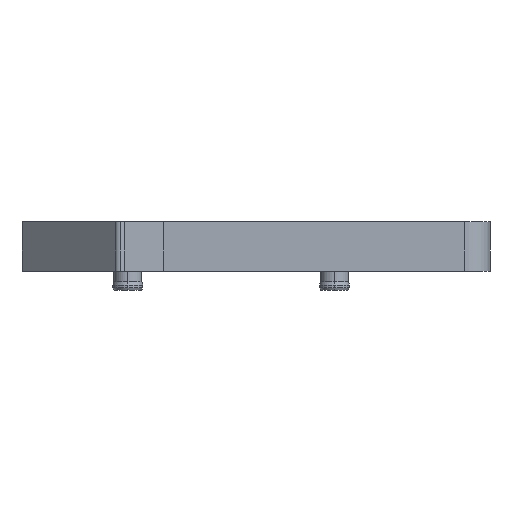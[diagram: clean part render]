
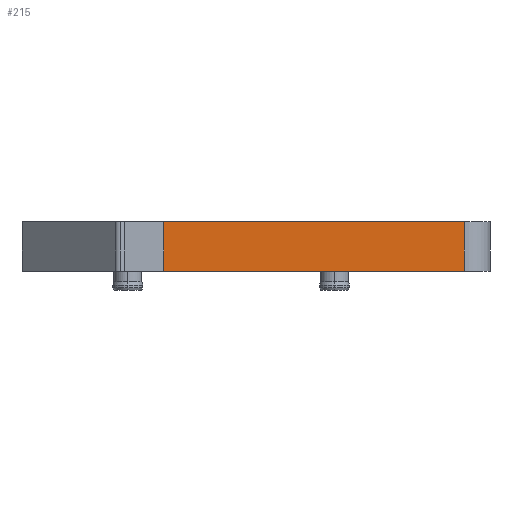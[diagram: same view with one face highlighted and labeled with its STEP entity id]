
A CAD part, left-side view. The second image highlights one B-rep face of the part: STEP entity #215.
In plain terms, the highlighted planar face has unit normal (-1, 0, 0).
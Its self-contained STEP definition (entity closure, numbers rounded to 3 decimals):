
#18 = VECTOR ( 'NONE', #3517, 1000. ) ;
#168 = AXIS2_PLACEMENT_3D ( 'NONE', #1152, #1475, #178 ) ;
#178 = DIRECTION ( 'NONE',  ( 0., 1., 0. ) ) ;
#215 = ADVANCED_FACE ( 'NONE', ( #679 ), #3366, .F. ) ;
#338 = VERTEX_POINT ( 'NONE', #1516 ) ;
#362 = ORIENTED_EDGE ( 'NONE', *, *, #2012, .T. ) ;
#606 = VERTEX_POINT ( 'NONE', #1963 ) ;
#679 = FACE_OUTER_BOUND ( 'NONE', #1548, .T. ) ;
#748 = EDGE_CURVE ( 'NONE', #1759, #3469, #3819, .T. ) ;
#868 = LINE ( 'NONE', #3745, #1072 ) ;
#899 = ORIENTED_EDGE ( 'NONE', *, *, #748, .F. ) ;
#904 = DIRECTION ( 'NONE',  ( 0., 0., -1. ) ) ;
#1072 = VECTOR ( 'NONE', #1557, 1000. ) ;
#1088 = CARTESIAN_POINT ( 'NONE',  ( -37., 25.585, 3.9 ) ) ;
#1152 = CARTESIAN_POINT ( 'NONE',  ( -37., 25.585, 3.9 ) ) ;
#1386 = DIRECTION ( 'NONE',  ( 0., -1., 0. ) ) ;
#1475 = DIRECTION ( 'NONE',  ( 1., 0., 0. ) ) ;
#1516 = CARTESIAN_POINT ( 'NONE',  ( -37., 2., 0. ) ) ;
#1517 = LINE ( 'NONE', #3182, #2567 ) ;
#1548 = EDGE_LOOP ( 'NONE', ( #362, #3925, #899, #4138 ) ) ;
#1555 = CARTESIAN_POINT ( 'NONE',  ( -37., 2., 3.9 ) ) ;
#1557 = DIRECTION ( 'NONE',  ( 0., 0., -1. ) ) ;
#1759 = VERTEX_POINT ( 'NONE', #1845 ) ;
#1845 = CARTESIAN_POINT ( 'NONE',  ( -37., 25.585, 3.9 ) ) ;
#1963 = CARTESIAN_POINT ( 'NONE',  ( -37., 25.585, 0. ) ) ;
#2012 = EDGE_CURVE ( 'NONE', #606, #338, #3858, .T. ) ;
#2567 = VECTOR ( 'NONE', #904, 1000. ) ;
#2901 = EDGE_CURVE ( 'NONE', #1759, #606, #868, .T. ) ;
#3182 = CARTESIAN_POINT ( 'NONE',  ( -37., 2., 3.9 ) ) ;
#3366 = PLANE ( 'NONE',  #168 ) ;
#3469 = VERTEX_POINT ( 'NONE', #1555 ) ;
#3517 = DIRECTION ( 'NONE',  ( 0., -1., 0. ) ) ;
#3543 = EDGE_CURVE ( 'NONE', #3469, #338, #1517, .T. ) ;
#3745 = CARTESIAN_POINT ( 'NONE',  ( -37., 25.585, 3.9 ) ) ;
#3819 = LINE ( 'NONE', #1088, #3914 ) ;
#3858 = LINE ( 'NONE', #3875, #18 ) ;
#3875 = CARTESIAN_POINT ( 'NONE',  ( -37., 25.585, 0. ) ) ;
#3914 = VECTOR ( 'NONE', #1386, 1000. ) ;
#3925 = ORIENTED_EDGE ( 'NONE', *, *, #3543, .F. ) ;
#4138 = ORIENTED_EDGE ( 'NONE', *, *, #2901, .T. ) ;
